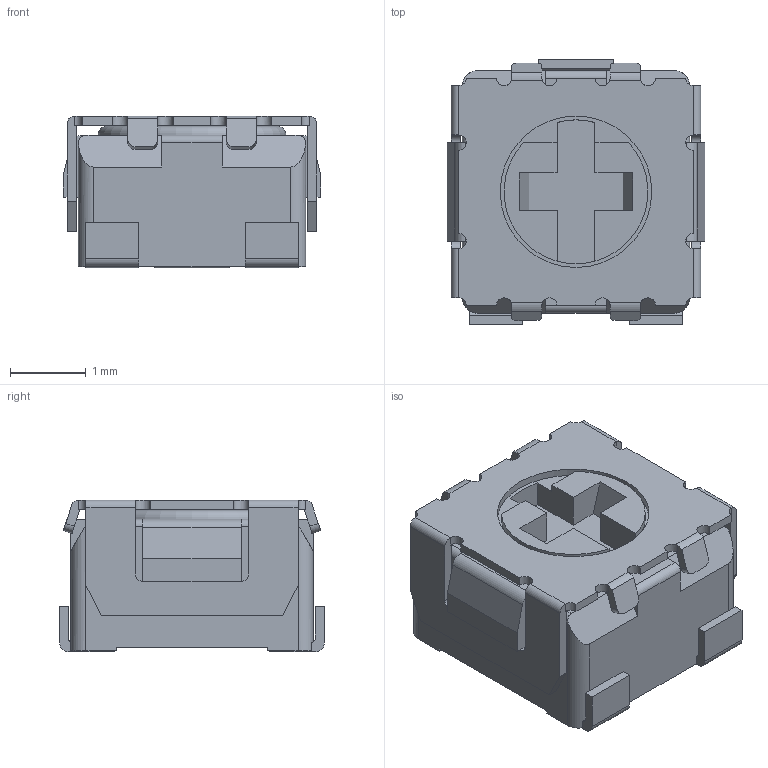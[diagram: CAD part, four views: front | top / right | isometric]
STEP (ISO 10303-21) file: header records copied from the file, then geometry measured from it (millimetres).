
FILE_DESCRIPTION(/* description */ ('STEP AP214'),/* implementation_level */ '2;1');
FILE_NAME(/* name */ 'ST-32ETA200k_(25)',/* time_stamp */ '2026-05-12T19:18:04+02:00',/* author */ ('License CC BY-ND 4.0'),/* organization */ ('CADENAS'),/* preprocessor_version */ 'ST-DEVELOPER v20',/* originating_system */ 'PARTsolutions',/* authorisation */ ' ');
FILE_SCHEMA (('AUTOMOTIVE_DESIGN {1 0 10303 214 3 1 1}'));
Length unit declared in the file: millimetre
Products named in the file (3): ST-32ETA200k_(25); ST-32-A_c; ST-32 dial_d
Assembly tree (2 placements, depth 2):
  ST-32ETA200k_(25)
    ST-32-A_c
    ST-32 dial_d
Bounding box: 3.4 x 3.5 x 2 mm (x, y, z)
Volume: 18.4 mm3; surface area: 85.3 mm2
Topology: 2 solids, 2 shells, 195 faces, 554 edges, 359 vertices
Faces by surface type: plane 126, cylinder 68, torus 1
Full cylindrical faces by diameter (mm): 2 x3
Entity records: 7596 total; most frequent: CARTESIAN_POINT 1149, ORIENTED_EDGE 1100, DIRECTION 1075, EDGE_CURVE 550, LINE 393, VECTOR 393, VERTEX_POINT 359, AXIS2_PLACEMENT_3D 341
